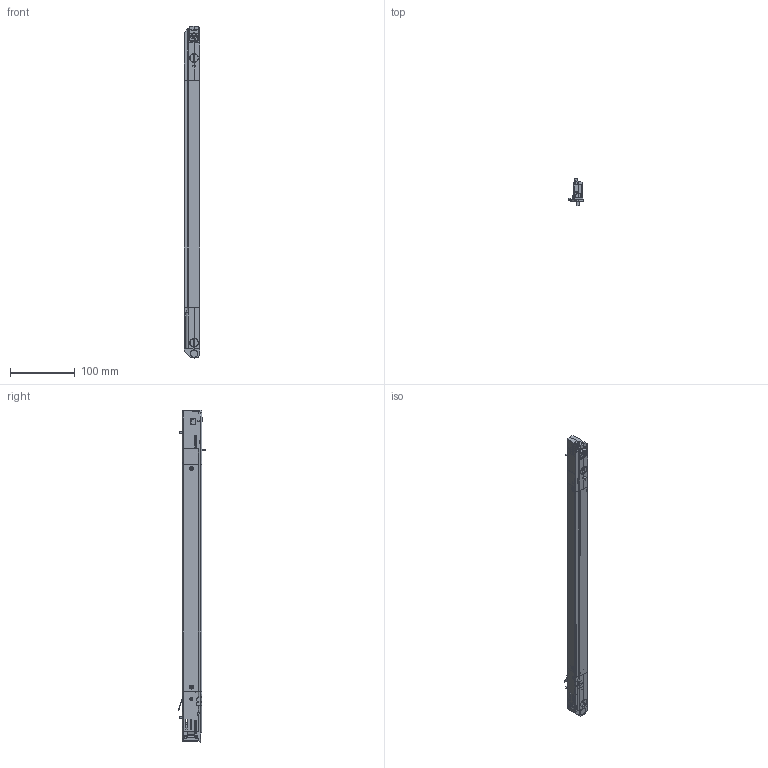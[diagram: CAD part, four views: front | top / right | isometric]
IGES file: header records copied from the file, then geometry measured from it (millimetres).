
Global section: file name: C:\CoreTechnologie\3D-in\020YE03Y03.igs; native system: CT CoreTechnologie 3D Evolution; preprocessor: 2006; date: 1171028.084235; units: millimetre
Bounding box: 24.4 x 42.58 x 513.5 mm (x, y, z)
Volume: 62927.8 mm3; surface area: 130902.5 mm2
Topology: 34 solids, 34 shells, 3593 faces, 9973 edges, 6591 vertices
Faces by surface type: plane 2550, revolution 714, bspline 329
